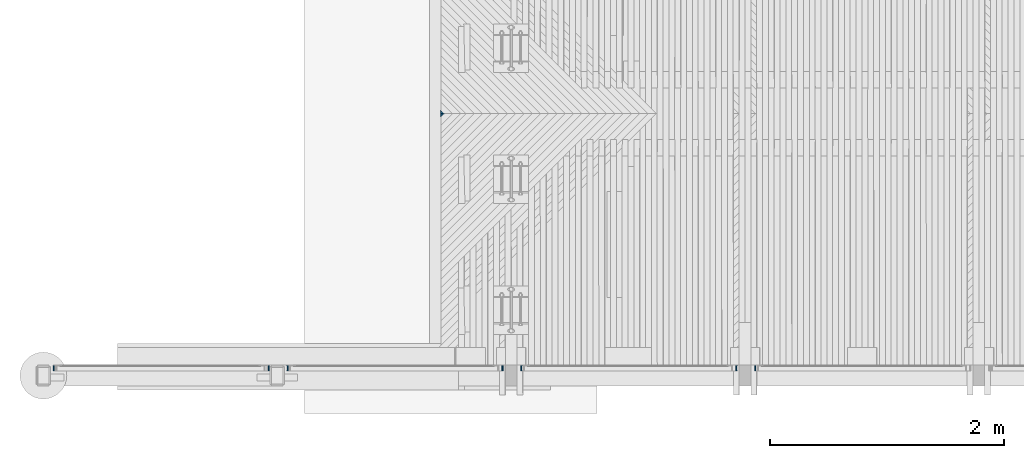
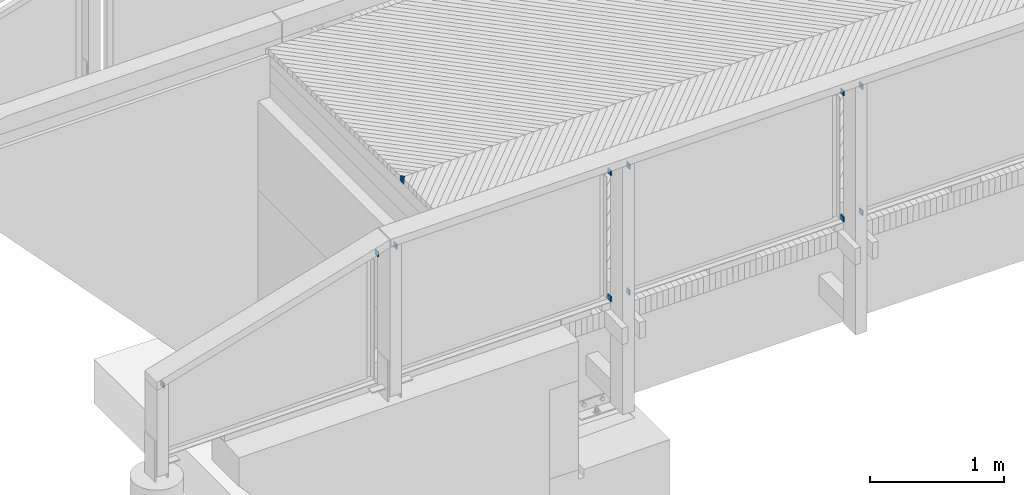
# One storey, part 56 of 65: 13 beams.
"""IFC2X3 building model written with IfcOpenShell, lengths in millimetres."""

from ifc_helpers import new_model, si_unit, frame, origin_with_axes, place, context, subcontext, project, spatial, faceted_brep, material, type_object, element, save


model = new_model("IFC2X3")

# Units and contexts
model_context = context("Model", 3, precision=1e-05, world=origin_with_axes())
body_context = subcontext(model_context, "Body", "Model", "MODEL_VIEW")
ifc_project = project(units=[si_unit("LENGTHUNIT", "METRE", prefix="MILLI"), si_unit("AREAUNIT", "SQUARE_METRE"), si_unit("VOLUMEUNIT", "CUBIC_METRE"), si_unit("MASSUNIT", "GRAM", prefix="KILO"), si_unit("TIMEUNIT", "SECOND"), si_unit("PLANEANGLEUNIT", "RADIAN"), si_unit("SOLIDANGLEUNIT", "STERADIAN"), si_unit("THERMODYNAMICTEMPERATUREUNIT", "DEGREE_CELSIUS"), si_unit("LUMINOUSINTENSITYUNIT", "LUMEN")], contexts=[model_context])

# Site, building, storey
site_placement = place(None, origin_with_axes())
site = spatial("IfcSite", under=ifc_project, at=site_placement, Name="Undefined", CompositionType="ELEMENT")
building_placement = place(site_placement, origin_with_axes())
building = spatial("IfcBuilding", under=site, at=building_placement, Name="Undefined", CompositionType="ELEMENT")
storey_placement = place(building_placement, origin_with_axes())
storey = spatial("IfcBuildingStorey", under=building, at=storey_placement, Name="Undefined", CompositionType="ELEMENT", Elevation=0.0)

# Beams
ifc_material_1 = material(Name="STEEL/S235JR")
beam_type_1 = type_object("IfcBeamType", Name="PL45*10", PredefinedType="NOTDEFINED")
for number, where, z_axis, x_axis, name in (
    (1, (2088.03941850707, 20210.0099999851, 3264.72927880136), (-0.00623752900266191, 0.0, -0.99998054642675), (0.0, -1.0, 0.0), "BEAM"),
    (2, (2087.8848903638, 20210.0099999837, 4409.72901881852), (0.00623752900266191, 0.0, 0.99998054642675), (0.0, -1.0, 0.0), "BEAM"),
    (3, (-3912.61017779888, 20210.0099999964, 3797.29636618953), (0.0, 0.0, 1.0), (0.0, -1.0, 0.0), "BEAM"),
    (4, (-2072.49474525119, 20210.0099999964, 4346.75135175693), (0.0, 0.0, 1.0), (0.0, -1.0, 0.0), "BEAM"),
    (5, (-73.0570568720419, 20209.9799999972, 3239.85570382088), (-0.00021659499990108, 0.0, -0.999999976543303), (0.0, -1.0, 0.0), "BEAM"),
    (6, (-1911.93419382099, 20210.0099999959, 4357.26933625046), (-0.000393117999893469, 0.0, 0.999999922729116), (0.0, -1.0, 0.0), "BEAM"),
    (7, (-73.007793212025, 20210.0099999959, 4384.85318506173), (-0.000393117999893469, 0.0, 0.999999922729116), (0.0, -1.0, 0.0), "BEAM"),
    (8, (88.0132064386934, 20210.0099999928, 3241.81899297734), (-0.00292312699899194, 0.0, -0.999995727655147), (0.0, -1.0, 0.0), "BEAM"),
    (9, (1927.03003313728, 20209.9800000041, 3263.30463991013), (-0.0035317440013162, 0.0, -0.999993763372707), (0.0, -1.0, 0.0), "BEAM"),
    (10, (87.97171859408, 20210.01, 4386.81397142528), (0.00292312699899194, 0.0, 0.999995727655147), (0.0, -1.0, 0.0), "BEAM"),
    (11, (1926.97948215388, 20210.01, 4408.29934174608), (0.00292312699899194, 0.0, 0.999995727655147), (0.0, -1.0, 0.0), "BEAM"),
):
    element("IfcBeam", number, at=place(storey_placement, frame(where, z_axis=z_axis, x_axis=x_axis)), inside=storey, type_object=beam_type_1, material=ifc_material_1, Name=name, ObjectType="PL45*10", context=body_context, shape_type="Brep", body=[
        faceted_brep([(0.0, 5.0, -22.5), (0.0, 5.0, 22.5), (45.0, 5.0, 22.5), (45.0, 5.0, -22.5), (0.0, -5.0, 22.5), (45.0, -5.0, 22.5), (0.0, -5.0, -22.5000000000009), (45.0, -5.0, -22.5000000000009)], [[[0, 1, 2, 3]], [[1, 4, 5, 2]], [[4, 6, 7, 5]], [[6, 0, 3, 7]], [[5, 7, 3, 2]], [[6, 4, 1, 0]]]),
    ])
ifc_material_2 = material(Name="TIMBER/Timber_Undefined")
beam_type_2 = type_object("IfcBeamType", Name="50*50", PredefinedType="NOTDEFINED")
beam_1_placement = place(storey_placement, frame((-608.702506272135, 22364.5001003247, 3174.2192060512), z_axis=(0.707226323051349, -0.706981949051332, -0.00272978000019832), x_axis=(-0.70680318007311, -0.706948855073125, -0.0255456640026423)))
element("IfcBeam", 12, at=beam_1_placement, inside=storey, type_object=beam_type_2, material=ifc_material_2, Name="BEAM", ObjectType="50*50", context=body_context, shape_type="Brep", body=[
    faceted_brep([(-26.4222658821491, -25.0000000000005, 25.0), (-7.16966926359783, -25.0000000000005, 5.70994576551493), (12.1319333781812, -25.0000000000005, 25.0000000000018), (-25.0086637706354, 24.9999999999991, 25.0), (13.273022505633, 24.9999999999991, 24.9999999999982), (-5.89215044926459, 24.9999999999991, 5.84629382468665)], [[[0, 1, 2]], [[3, 0, 2, 4]], [[3, 4, 5]], [[0, 3, 5, 1]], [[4, 2, 1, 5]]]),
])
beam_2_placement = place(storey_placement, frame((-608.702506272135, 22365.4998996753, 3174.2192060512), z_axis=(0.707226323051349, 0.706981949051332, -0.00272978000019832), x_axis=(-0.70680318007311, 0.706948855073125, -0.0255456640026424)))
element("IfcBeam", 13, at=beam_2_placement, inside=storey, type_object=beam_type_2, material=ifc_material_2, Name="BEAM", ObjectType="50*50", context=body_context, shape_type="Brep", body=[
    faceted_brep([(-26.4154158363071, 24.9999999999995, 24.9999999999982), (12.1319333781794, 24.9999999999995, 24.9999999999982), (-7.14705769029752, 25.0, 5.73254381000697), (-25.0011704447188, -25.0, 24.9999999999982), (-5.8693527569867, -25.0, 5.86907787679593), (13.2730225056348, -25.0, 24.9999999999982)], [[[0, 1, 2]], [[3, 0, 2, 4]], [[3, 4, 5]], [[0, 3, 5, 1]], [[4, 2, 1, 5]]]),
])

save(model, "model.ifc")
